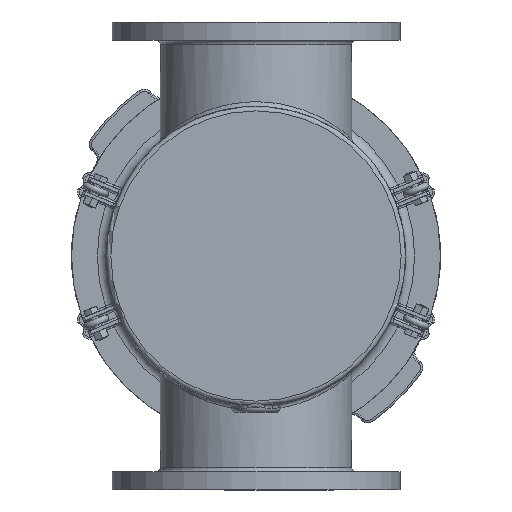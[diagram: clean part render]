
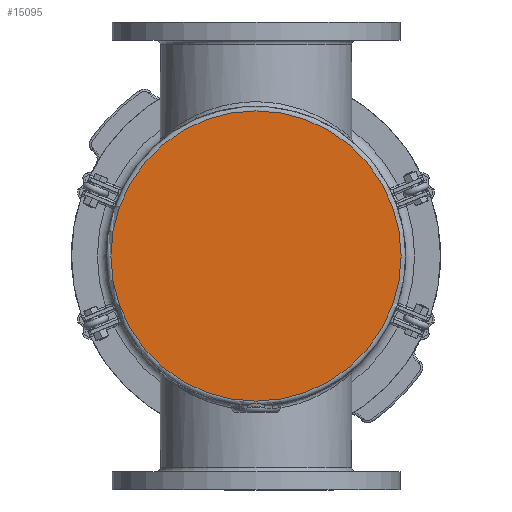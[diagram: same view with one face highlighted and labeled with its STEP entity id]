
A CAD part, front view. The second image highlights one B-rep face of the part: STEP entity #15095.
In plain terms, the highlighted planar face has unit normal (0, -1, 0).
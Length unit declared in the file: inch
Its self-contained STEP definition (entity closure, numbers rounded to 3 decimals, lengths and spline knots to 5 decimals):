
#2119=PLANE('',#16113);
#3383=FACE_OUTER_BOUND('',#4354,.T.);
#4354=EDGE_LOOP('',(#10079));
#5549=CIRCLE('',#16109,8.0625);
#6511=VERTEX_POINT('',#23268);
#7882=EDGE_CURVE('',#6511,#6511,#5549,.T.);
#10079=ORIENTED_EDGE('',*,*,#7882,.F.);
#15095=ADVANCED_FACE('',(#3383),#2119,.F.);
#16109=AXIS2_PLACEMENT_3D('',#23269,#18123,#18124);
#16113=AXIS2_PLACEMENT_3D('',#23274,#18131,#18132);
#18123=DIRECTION('center_axis',(0.,1.,0.));
#18124=DIRECTION('ref_axis',(1.,0.,0.));
#18131=DIRECTION('center_axis',(0.,1.,0.));
#18132=DIRECTION('ref_axis',(0.,0.,1.));
#23268=CARTESIAN_POINT('',(-8.0625,0.,0.));
#23269=CARTESIAN_POINT('Origin',(0.,0.,0.));
#23274=CARTESIAN_POINT('Origin',(0.,0.,0.));
